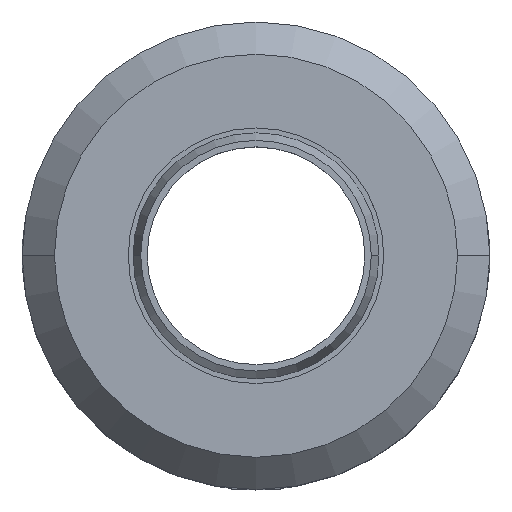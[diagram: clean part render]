
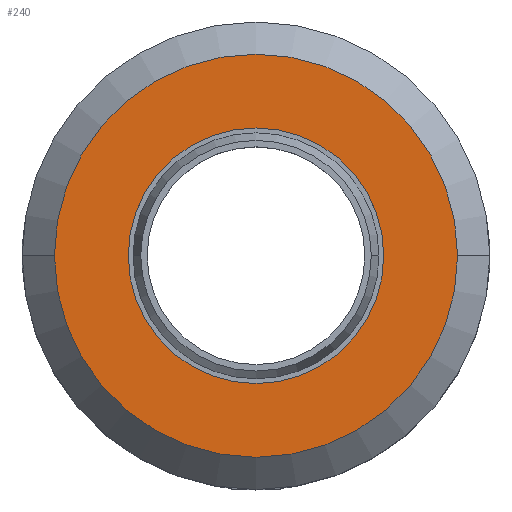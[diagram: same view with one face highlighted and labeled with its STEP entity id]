
A CAD part, top view. The second image highlights one B-rep face of the part: STEP entity #240.
In plain terms, the highlighted planar face has unit normal (0, 0, 1).
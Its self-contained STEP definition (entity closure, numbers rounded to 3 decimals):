
#3 = VERTEX_POINT ( 'NONE', #645 ) ;
#4 = VERTEX_POINT ( 'NONE', #700 ) ;
#5 = EDGE_CURVE ( 'NONE', #3, #4, #773, .T. ) ;
#142 = VERTEX_POINT ( 'NONE', #1178 ) ;
#144 = EDGE_CURVE ( 'NONE', #142, #145, #1177, .T. ) ;
#145 = VERTEX_POINT ( 'NONE', #1084 ) ;
#221 = EDGE_CURVE ( 'NONE', #4, #3, #1385, .T. ) ;
#222 = ORIENTED_EDGE ( 'NONE', *, *, #5, .T. ) ;
#231 = EDGE_LOOP ( 'NONE', ( #241, #236 ) ) ;
#236 = ORIENTED_EDGE ( 'NONE', *, *, #144, .F. ) ;
#237 = EDGE_LOOP ( 'NONE', ( #238, #222 ) ) ;
#238 = ORIENTED_EDGE ( 'NONE', *, *, #221, .T. ) ;
#240 = ADVANCED_FACE ( 'NONE', ( #1578, #1577 ), #1451, .F. ) ;
#241 = ORIENTED_EDGE ( 'NONE', *, *, #281, .F. ) ;
#281 = EDGE_CURVE ( 'NONE', #145, #142, #1486, .T. ) ;
#645 = CARTESIAN_POINT ( 'NONE',  ( 25., 0., 0. ) ) ;
#692 = AXIS2_PLACEMENT_3D ( 'NONE', #760, #721, #761 ) ;
#700 = CARTESIAN_POINT ( 'NONE',  ( -25., 0., 0. ) ) ;
#721 = DIRECTION ( 'NONE',  ( 0., 0., 1. ) ) ;
#760 = CARTESIAN_POINT ( 'NONE',  ( 0., 0., 0. ) ) ;
#761 = DIRECTION ( 'NONE',  ( 1., 0., 0. ) ) ;
#773 = CIRCLE ( 'NONE', #692, 25. ) ;
#1084 = CARTESIAN_POINT ( 'NONE',  ( 15.85, 0., 0. ) ) ;
#1085 = DIRECTION ( 'NONE',  ( 1., 0., 0. ) ) ;
#1086 = DIRECTION ( 'NONE',  ( 0., 0., 1. ) ) ;
#1087 = CARTESIAN_POINT ( 'NONE',  ( 0., 0., 0. ) ) ;
#1088 = AXIS2_PLACEMENT_3D ( 'NONE', #1087, #1086, #1085 ) ;
#1177 = CIRCLE ( 'NONE', #1088, 15.85 ) ;
#1178 = CARTESIAN_POINT ( 'NONE',  ( -15.85, 0., 0. ) ) ;
#1381 = DIRECTION ( 'NONE',  ( 1., 0., 0. ) ) ;
#1382 = DIRECTION ( 'NONE',  ( 0., 0., 1. ) ) ;
#1383 = CARTESIAN_POINT ( 'NONE',  ( 0., 0., 0. ) ) ;
#1384 = AXIS2_PLACEMENT_3D ( 'NONE', #1383, #1382, #1381 ) ;
#1385 = CIRCLE ( 'NONE', #1384, 25. ) ;
#1448 = DIRECTION ( 'NONE',  ( 0., 0., -1. ) ) ;
#1449 = CARTESIAN_POINT ( 'NONE',  ( 0., 15.85, 0. ) ) ;
#1450 = AXIS2_PLACEMENT_3D ( 'NONE', #1449, #1448, #1498 ) ;
#1451 = PLANE ( 'NONE',  #1450 ) ;
#1482 = DIRECTION ( 'NONE',  ( 1., 0., 0. ) ) ;
#1483 = DIRECTION ( 'NONE',  ( 0., 0., 1. ) ) ;
#1484 = CARTESIAN_POINT ( 'NONE',  ( 0., 0., 0. ) ) ;
#1485 = AXIS2_PLACEMENT_3D ( 'NONE', #1484, #1483, #1482 ) ;
#1486 = CIRCLE ( 'NONE', #1485, 15.85 ) ;
#1498 = DIRECTION ( 'NONE',  ( -1., 0., 0. ) ) ;
#1577 = FACE_OUTER_BOUND ( 'NONE', #237, .T. ) ;
#1578 = FACE_BOUND ( 'NONE', #231, .T. ) ;
